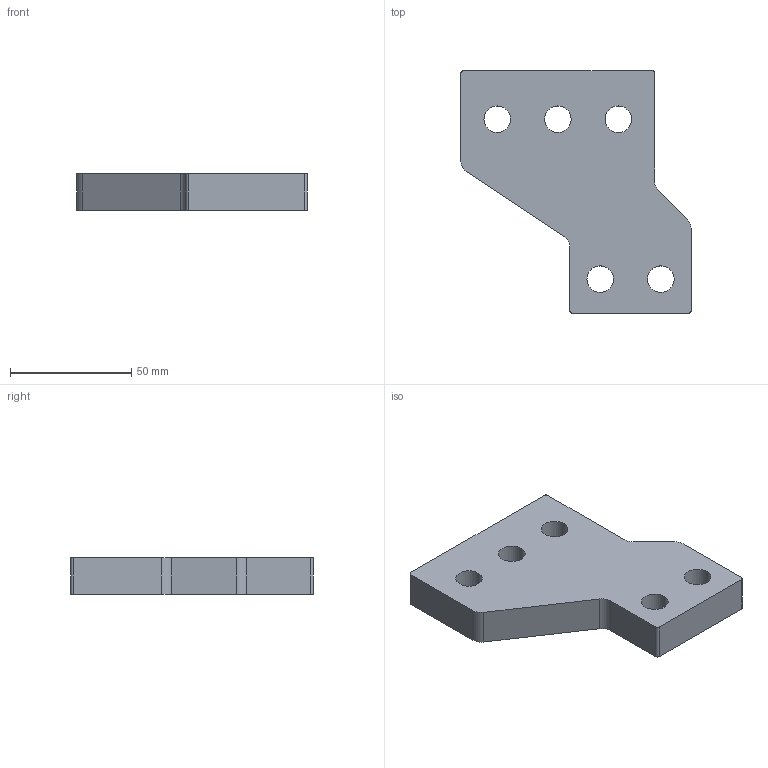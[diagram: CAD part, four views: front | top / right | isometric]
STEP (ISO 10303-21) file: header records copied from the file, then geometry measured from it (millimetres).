
FILE_DESCRIPTION (( 'STEP AP203' ), '1' );
FILE_NAME ('8LD.580.1211-1600-ACÏà.STEP', '2023-09-21T10:57:55', ( '' ), ( '' ), 'SwSTEP 2.0', 'SolidWorks 2018', '' );
FILE_SCHEMA (( 'CONFIG_CONTROL_DESIGN' ));
Length unit declared in the file: millimetre
Products named in the file (1): 8LD.580.1211-1600-AC眈角“∟
Bounding box: 95 x 100 x 15 mm (x, y, z)
Volume: 92497.1 mm3; surface area: 20283.9 mm2
Topology: 1 solids, 1 shells, 28 faces, 78 edges, 52 vertices
Faces by surface type: cylinder 18, plane 10
Entity records: 1015 total; most frequent: DIRECTION 172, CARTESIAN_POINT 159, ORIENTED_EDGE 156, EDGE_CURVE 78, AXIS2_PLACEMENT_3D 65, VERTEX_POINT 52, VECTOR 42, LINE 42
